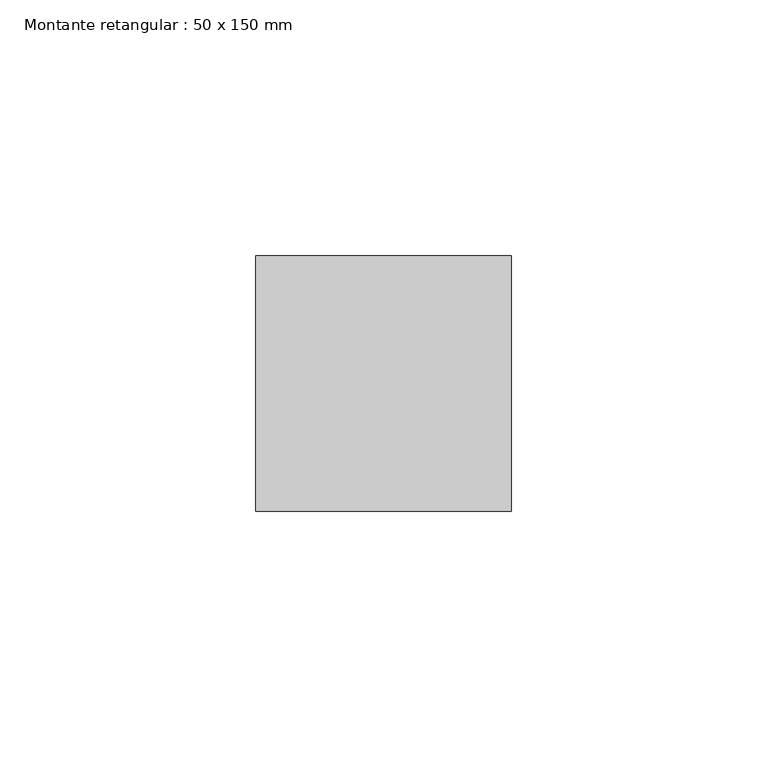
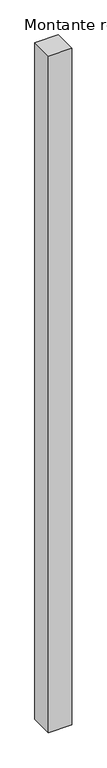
"""IFC4 building model written with IfcOpenShell, lengths in millimetres: member geometry, Montante retangular : 50 x 150 mm."""

from ifc_helpers import new_model, si_unit, frame, origin, place, context, project, spatial, polyline, outline, extrude, source, transform, mapped, element, save


def montante_retangular_50_x_150_mm_52c40d53(model_context):
    return source(origin(), model_context, "Body", "SweptSolid", [
        extrude(outline(polyline([(25.0, 25.0), (25.0, -25.0), (-25.0, -25.0), (-25.0, 25.0), (25.0, 25.0)])), frame((0.0, 0.0, -1525.0), z_axis=(0.0, 0.0, 1.0), x_axis=(1.0, 0.0, 0.0)), (0.0, 0.0, 1.0), 1525.0),
    ])


if __name__ == "__main__":
    model = new_model("IFC4")
    model_context = context("Model", 3, world=origin())
    ifc_project = project(units=[si_unit("LENGTHUNIT", "METRE", prefix="MILLI")], contexts=[model_context])
    site = spatial("IfcSite", under=ifc_project)
    building = spatial("IfcBuilding", under=site)
    placement = place(None, origin())
    montante_retangular_50_x_150_mm_shape = montante_retangular_50_x_150_mm_52c40d53(model_context)
    element("IfcMember", 1, ObjectType="Montante retangular : 50 x 150 mm", at=placement, inside=building, context=model_context, shape_type="MappedRepresentation", body=[
        mapped(montante_retangular_50_x_150_mm_shape, transform((0.0, 0.0, 0.0), x_axis=(1.0, 0.0, 0.0), y_axis=(0.0, 1.0, 0.0), z_axis=(0.0, 0.0, 1.0))),
    ])
    save(model, "model.ifc")
